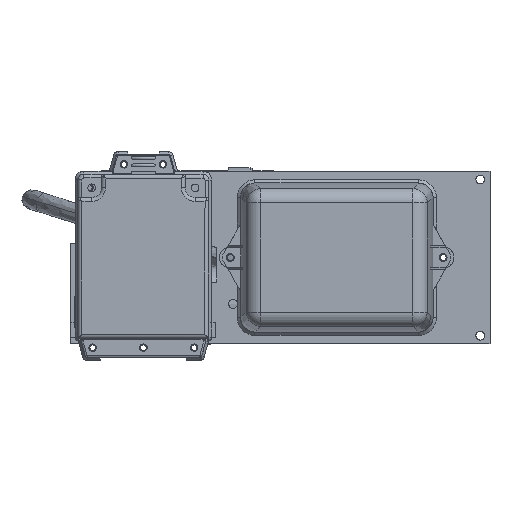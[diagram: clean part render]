
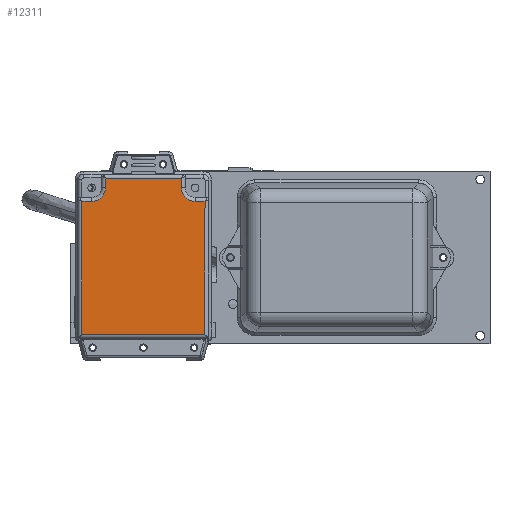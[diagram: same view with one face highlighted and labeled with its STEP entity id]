
A CAD part, left-side view. The second image highlights one B-rep face of the part: STEP entity #12311.
In plain terms, the highlighted planar face has unit normal (-1, 0, 0).
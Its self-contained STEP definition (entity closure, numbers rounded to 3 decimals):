
#10278=CARTESIAN_POINT('',(-350.613,122.441,
-179.01));
#10289=CARTESIAN_POINT('',(-350.613,122.401,
-110.91));
#10397=CARTESIAN_POINT('',(-350.613,110.344,
-98.917));
#10399=CARTESIAN_POINT('',(-350.613,64.347,
-103.944));
#10400=DIRECTION('',(-1.,0.,0.));
#10401=DIRECTION('',(0.,1.,0.001));
#10402=AXIS2_PLACEMENT_3D('',#10399,#10400,#10401);
#10404=DIRECTION('',(0.,1.,0.001));
#10405=VECTOR('',#10404,63.1);
#10406=CARTESIAN_POINT('',(-350.613,59.341,
-179.047));
#10407=LINE('',#10406,#10405);
#10408=DIRECTION('',(0.,-0.001,1.));
#10409=VECTOR('',#10408,68.1);
#10410=CARTESIAN_POINT('',(-350.613,122.441,
-179.01));
#10411=LINE('',#10410,#10409);
#10412=CARTESIAN_POINT('',(-350.613,117.347,
-103.913));
#10413=DIRECTION('',(-1.,0.,0.));
#10414=DIRECTION('',(0.,0.001,-1.));
#10415=AXIS2_PLACEMENT_3D('',#10412,#10413,#10414);
#10417=DIRECTION('',(0.,-0.001,1.));
#10418=VECTOR('',#10417,5.);
#10419=CARTESIAN_POINT('',(-350.613,110.347,
-103.917));
#10420=LINE('',#10419,#10418);
#10433=DIRECTION('',(0.,1.,0.001));
#10434=VECTOR('',#10433,39.);
#10435=CARTESIAN_POINT('',(-350.613,71.344,
-98.94));
#10436=LINE('',#10435,#10434);
#10649=DIRECTION('',(0.,1.,0.001));
#10650=VECTOR('',#10649,5.05);
#10651=CARTESIAN_POINT('',(-350.613,59.301,
-110.947));
#10652=LINE('',#10651,#10650);
#10678=DIRECTION('',(0.,-0.001,1.));
#10679=VECTOR('',#10678,5.);
#10680=CARTESIAN_POINT('',(-350.613,71.347,
-103.94));
#10681=LINE('',#10680,#10679);
#10796=DIRECTION('',(0.,-0.001,1.));
#10797=VECTOR('',#10796,68.1);
#10798=CARTESIAN_POINT('',(-350.613,59.341,
-179.047));
#10799=LINE('',#10798,#10797);
#10858=DIRECTION('',(0.,1.,0.001));
#10859=VECTOR('',#10858,5.05);
#10860=CARTESIAN_POINT('',(-350.613,117.351,
-110.913));
#10861=LINE('',#10860,#10859);
#11400=VERTEX_POINT('',#10278);
#11401=VERTEX_POINT('',#10289);
#11423=VERTEX_POINT('',#10397);
#11424=CARTESIAN_POINT('',(-350.613,71.344,
-98.94));
#11425=VERTEX_POINT('',#11424);
#11426=CARTESIAN_POINT('',(-350.613,71.347,
-103.94));
#11427=VERTEX_POINT('',#11426);
#11428=CARTESIAN_POINT('',(-350.613,64.351,
-110.944));
#11429=VERTEX_POINT('',#11428);
#11430=CARTESIAN_POINT('',(-350.613,59.301,
-110.947));
#11431=VERTEX_POINT('',#11430);
#11432=CARTESIAN_POINT('',(-350.613,59.341,
-179.047));
#11433=VERTEX_POINT('',#11432);
#11434=CARTESIAN_POINT('',(-350.613,117.351,
-110.913));
#11435=VERTEX_POINT('',#11434);
#11436=CARTESIAN_POINT('',(-350.613,110.347,
-103.917));
#11437=VERTEX_POINT('',#11436);
#12287=CARTESIAN_POINT('',(-350.613,90.868,
-138.978));
#12288=DIRECTION('',(1.,0.,0.));
#12289=DIRECTION('',(0.,0.001,-1.));
#12290=AXIS2_PLACEMENT_3D('',#12287,#12288,#12289);
#12291=PLANE('',#12290);
#12293=ORIENTED_EDGE('',*,*,#12292,.F.);
#12295=ORIENTED_EDGE('',*,*,#12294,.F.);
#12297=ORIENTED_EDGE('',*,*,#12296,.T.);
#12299=ORIENTED_EDGE('',*,*,#12298,.F.);
#12301=ORIENTED_EDGE('',*,*,#12300,.F.);
#12302=ORIENTED_EDGE('',*,*,#11970,.T.);
#12303=ORIENTED_EDGE('',*,*,#12033,.T.);
#12305=ORIENTED_EDGE('',*,*,#12304,.F.);
#12307=ORIENTED_EDGE('',*,*,#12306,.T.);
#12308=ORIENTED_EDGE('',*,*,#12278,.T.);
#12309=EDGE_LOOP('',(#12293,#12295,#12297,#12299,#12301,#12302,#12303,#12305,
#12307,#12308));
#12310=FACE_OUTER_BOUND('',#12309,.F.);
#12311=ADVANCED_FACE('',(#12310),#12291,.F.);
#10403=CIRCLE('',#10402,7.);
#10416=CIRCLE('',#10415,7.);
#11970=EDGE_CURVE('',#11433,#11400,#10407,.T.);
#12033=EDGE_CURVE('',#11400,#11401,#10411,.T.);
#12278=EDGE_CURVE('',#11437,#11423,#10420,.T.);
#12292=EDGE_CURVE('',#11425,#11423,#10436,.T.);
#12294=EDGE_CURVE('',#11427,#11425,#10681,.T.);
#12296=EDGE_CURVE('',#11427,#11429,#10403,.T.);
#12298=EDGE_CURVE('',#11431,#11429,#10652,.T.);
#12300=EDGE_CURVE('',#11433,#11431,#10799,.T.);
#12304=EDGE_CURVE('',#11435,#11401,#10861,.T.);
#12306=EDGE_CURVE('',#11435,#11437,#10416,.T.);
